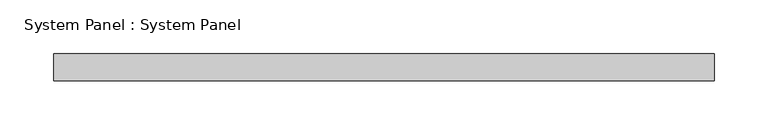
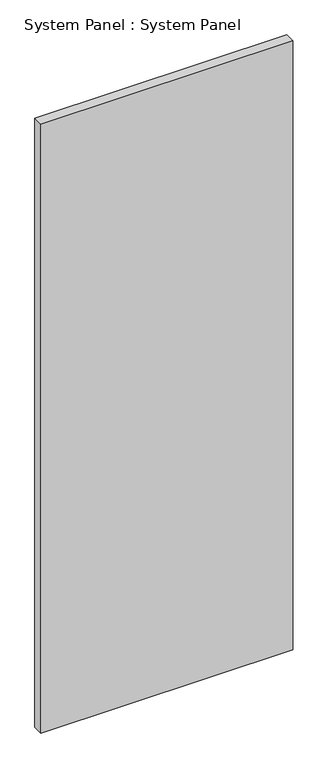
"""IFC4 building model written with IfcOpenShell, lengths in millimetres: plate geometry, System Panel : System Panel."""

import ifcopenshell
import ifcopenshell.guid

model = None  # the IFC model being written
_history = None  # IfcOwnerHistory: only IFC2X3 demands one
_inside = {}  # id of a spatial element -> (the spatial element, [elements in it])
_under = {}  # id of a project, library or spatial element -> (it, [spatial elements below it])
_declared = {}  # id of a project -> (the project, [libraries it declares])
_typed = {}  # id of a type object -> (the type object, [elements of that type])
_made_of = {}  # id of a material, layer set ... -> (it, [elements and type objects made of it])


def new_model(schema):
    """Start an empty IFC model of exactly this schema.

    Asked for "IFC4X3", IfcOpenShell would pick the latest addendum, in which some entities
    have other attributes; the version numbers below select the first issue.
    IFC2X3 requires an IfcOwnerHistory on every rooted entity: one is made here for all.
    """
    global model, _history
    if schema == "IFC4X3":
        model = ifcopenshell.file(schema_version=(4, 3, 0, 0))
    else:
        model = ifcopenshell.file(schema=schema)
    _inside.clear()
    _under.clear()
    _declared.clear()
    _typed.clear()
    _made_of.clear()
    _history = None
    if model.schema == "IFC2X3":
        org = make("IfcOrganization", Name="unknown")
        user = make(
            "IfcPersonAndOrganization",
            ThePerson=make("IfcPerson", FamilyName="unknown"),
            TheOrganization=org,
        )
        app = make(
            "IfcApplication",
            ApplicationDeveloper=org,
            Version="unknown",
            ApplicationFullName="unknown",
            ApplicationIdentifier="unknown",
        )
        _history = make(
            "IfcOwnerHistory",
            OwningUser=user,
            OwningApplication=app,
            ChangeAction="ADDED",
            CreationDate=0,
        )
    return model


def make(cls, **values):
    """One entity of the class cls with the attributes given. An attribute that is None is left unset."""
    return model.create_entity(
        cls, **{name: value for name, value in values.items() if value is not None}
    )


def rooted(cls, **values):
    """An entity with a GlobalId (a new one), such as an element, a storey or a relation."""
    return make(cls, GlobalId=ifcopenshell.guid.new(), OwnerHistory=_history, **values)


def si_unit(unit_type, name, prefix=None):
    """IfcSIUnit, for example si_unit("LENGTHUNIT", "METRE", prefix="MILLI")."""
    return make("IfcSIUnit", UnitType=unit_type, Prefix=prefix, Name=name)


def assignment(units):
    """IfcUnitAssignment: the units of a project."""
    return None if units is None else make("IfcUnitAssignment", Units=units)


def point(xyz):
    """IfcCartesianPoint."""
    return None if xyz is None else make("IfcCartesianPoint", Coordinates=xyz)


def direction(xyz):
    """IfcDirection."""
    return None if xyz is None else make("IfcDirection", DirectionRatios=xyz)


def frame(location, z_axis=None, x_axis=None):
    """IfcAxis2Placement3D, a coordinate frame: its origin and axes. An axis left out is left unset."""
    return make(
        "IfcAxis2Placement3D",
        Location=point(location),
        Axis=direction(z_axis),
        RefDirection=direction(x_axis),
    )


def origin():
    """The frame at (0, 0, 0) with its axes left unset."""
    return frame((0.0, 0.0, 0.0))


def origin_with_axes():
    """The frame at (0, 0, 0) with the z axis (0, 0, 1) and the x axis (1, 0, 0) written out."""
    return frame((0.0, 0.0, 0.0), z_axis=(0.0, 0.0, 1.0), x_axis=(1.0, 0.0, 0.0))


def place(relative_to, where):
    """IfcLocalPlacement: puts the frame where relative to a parent placement (None: the world)."""
    return make(
        "IfcLocalPlacement", PlacementRelTo=relative_to, RelativePlacement=where
    )


def context(
    kind, dimensions, precision=None, world=None, true_north=None, identifier=None
):
    """IfcGeometricRepresentationContext, for example the 3D "Model" context."""
    return make(
        "IfcGeometricRepresentationContext",
        ContextIdentifier=identifier,
        ContextType=kind,
        CoordinateSpaceDimension=dimensions,
        Precision=precision,
        WorldCoordinateSystem=world,
        TrueNorth=true_north,
    )


def project(units=None, contexts=None):
    """IfcProject with its units and contexts."""
    return rooted(
        "IfcProject",
        Name="project",
        RepresentationContexts=contexts,
        UnitsInContext=assignment(units),
    )


def spatial(cls, under=None, at=None, **own):
    """A site, building, storey or space (cls), placed at a placement, below another one or the project."""
    s = rooted(cls, ObjectPlacement=at, **own)
    if under is not None:
        _under.setdefault(under.id(), (under, []))[1].append(s)
    return s


def polyline(points):
    """IfcPolyline through the points."""
    return make("IfcPolyline", Points=[point(p) for p in points])


def outline(outer, holes=None, kind="AREA"):
    """IfcArbitraryClosedProfileDef: a profile drawn as a closed curve; with holes, ...WithVoids."""
    if holes is None:
        return make("IfcArbitraryClosedProfileDef", ProfileType=kind, OuterCurve=outer)
    return make(
        "IfcArbitraryProfileDefWithVoids",
        ProfileType=kind,
        OuterCurve=outer,
        InnerCurves=holes,
    )


def extrude(swept, where, along, depth):
    """IfcExtrudedAreaSolid: the profile swept, set in the frame where, extruded along a direction by depth."""
    return make(
        "IfcExtrudedAreaSolid",
        SweptArea=swept,
        Position=where,
        ExtrudedDirection=direction(along),
        Depth=depth,
    )


def shape(context_of_items, identifier, shape_type, items):
    """IfcShapeRepresentation: the items that make up one representation, for example the "Body"."""
    return make(
        "IfcShapeRepresentation",
        ContextOfItems=context_of_items,
        RepresentationIdentifier=identifier,
        RepresentationType=shape_type,
        Items=items,
    )


def source(mapping_origin, context_of_items, identifier, shape_type, items):
    """IfcRepresentationMap: a shape defined once, which mapped items show again and again."""
    return make(
        "IfcRepresentationMap",
        MappingOrigin=mapping_origin,
        MappedRepresentation=shape(context_of_items, identifier, shape_type, items),
    )


def transform(
    local_origin,
    x_axis=None,
    y_axis=None,
    z_axis=None,
    scale=None,
    scale2=None,
    scale3=None,
    uniform=True,
):
    """IfcCartesianTransformationOperator3D, or its non-uniform kind. x_axis, y_axis, z_axis: its Axis1, 2, 3."""
    if uniform:
        return make(
            "IfcCartesianTransformationOperator3D",
            Axis1=direction(x_axis),
            Axis2=direction(y_axis),
            LocalOrigin=point(local_origin),
            Scale=scale,
            Axis3=direction(z_axis),
        )
    return make(
        "IfcCartesianTransformationOperator3DnonUniform",
        Axis1=direction(x_axis),
        Axis2=direction(y_axis),
        LocalOrigin=point(local_origin),
        Scale=scale,
        Axis3=direction(z_axis),
        Scale2=scale2,
        Scale3=scale3,
    )


def mapped(mapping_source, mapping_target):
    """IfcMappedItem: shows the shape of a source again, moved by a transform."""
    return make(
        "IfcMappedItem", MappingSource=mapping_source, MappingTarget=mapping_target
    )


def made_of(thing, what):
    """Note that an element or type object is made of a material, layer set ...; save() writes the relation."""
    if what is not None:
        _made_of.setdefault(what.id(), (what, []))[1].append(thing)
    return thing


def element(
    cls,
    number,
    at=None,
    inside=None,
    cuts=None,
    type_object=None,
    material=None,
    context=None,
    identifier="Body",
    shape_type=None,
    held_by="IfcProductDefinitionShape",
    body=None,
    shapes=None,
    **own,
):
    """One element of the class cls, such as IfcWall. Its Tag is "e" and its number.

    at: its placement. inside: the storey or other place that contains it. cuts: it is an
    opening in that element (IfcRelVoidsElement). A single representation is given by context,
    identifier, shape_type and body (its items); several are given by shapes. held_by: the class
    of the entity that holds the representations. save() writes the other relations.
    """
    e = rooted(cls, Tag="e%d" % number, ObjectPlacement=at, **own)
    if body is not None:
        shapes = [shape(context, identifier, shape_type, body)]
    if shapes is not None:
        e.Representation = make(held_by, Representations=shapes)
    if inside is not None:
        _inside.setdefault(inside.id(), (inside, []))[1].append(e)
    if cuts is not None:
        rooted(
            "IfcRelVoidsElement", RelatingBuildingElement=cuts, RelatedOpeningElement=e
        )
    if type_object is not None:
        _typed.setdefault(type_object.id(), (type_object, []))[1].append(e)
    return made_of(e, material)


def aggregate(whole, parts):
    """IfcRelAggregates: a whole, such as a stair, and the parts it consists of."""
    return rooted("IfcRelAggregates", RelatingObject=whole, RelatedObjects=parts)


def save(model, path):
    """Write the relations noted so far, then the file.

    IfcRelAggregates (storeys below a building ...), IfcRelContainedInSpatialStructure (elements
    in a storey), IfcRelDefinesByType, IfcRelAssociatesMaterial and IfcRelDeclares: one each for
    every whole, place, type object, material and project.
    """
    for whole, parts in _under.values():
        aggregate(whole, parts)
    for where, things in _inside.values():
        rooted(
            "IfcRelContainedInSpatialStructure",
            RelatedElements=things,
            RelatingStructure=where,
        )
    for kind, things in _typed.values():
        rooted("IfcRelDefinesByType", RelatedObjects=things, RelatingType=kind)
    for what, things in _made_of.values():
        rooted("IfcRelAssociatesMaterial", RelatedObjects=things, RelatingMaterial=what)
    for by, libraries in _declared.values():
        rooted("IfcRelDeclares", RelatingContext=by, RelatedDefinitions=libraries)
    model.write(path)


def system_panel_system_panel_8455f93f(model_context):
    return source(origin(), model_context, "Body", "SweptSolid", [
        extrude(outline(polyline([(307.975, 19.05), (-307.975, 19.05), (-307.975, 44.45), (307.975, 44.45), (307.975, 19.05)])), origin_with_axes(), (0.0, 0.0, 1.0), 1574.8),
    ])


if __name__ == "__main__":
    model = new_model("IFC4")
    model_context = context("Model", 3, world=origin())
    ifc_project = project(units=[si_unit("LENGTHUNIT", "METRE", prefix="MILLI")], contexts=[model_context])
    site = spatial("IfcSite", under=ifc_project)
    building = spatial("IfcBuilding", under=site)
    placement = place(None, origin())
    system_panel_system_panel_shape = system_panel_system_panel_8455f93f(model_context)
    element("IfcPlate", 1, ObjectType="System Panel : System Panel", at=placement, inside=building, context=model_context, shape_type="MappedRepresentation", body=[
        mapped(system_panel_system_panel_shape, transform((0.0, 0.0, 0.0), x_axis=(1.0, 0.0, 0.0), y_axis=(0.0, 1.0, 0.0), z_axis=(0.0, 0.0, 1.0))),
    ])
    save(model, "model.ifc")
